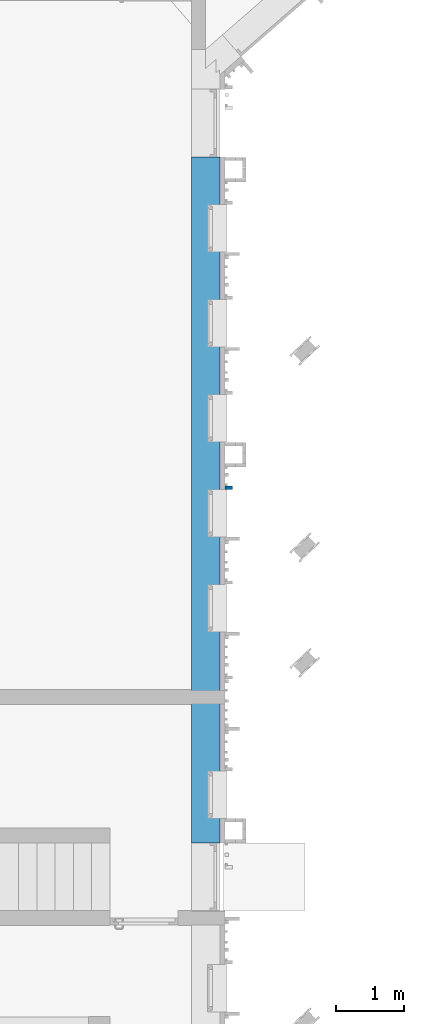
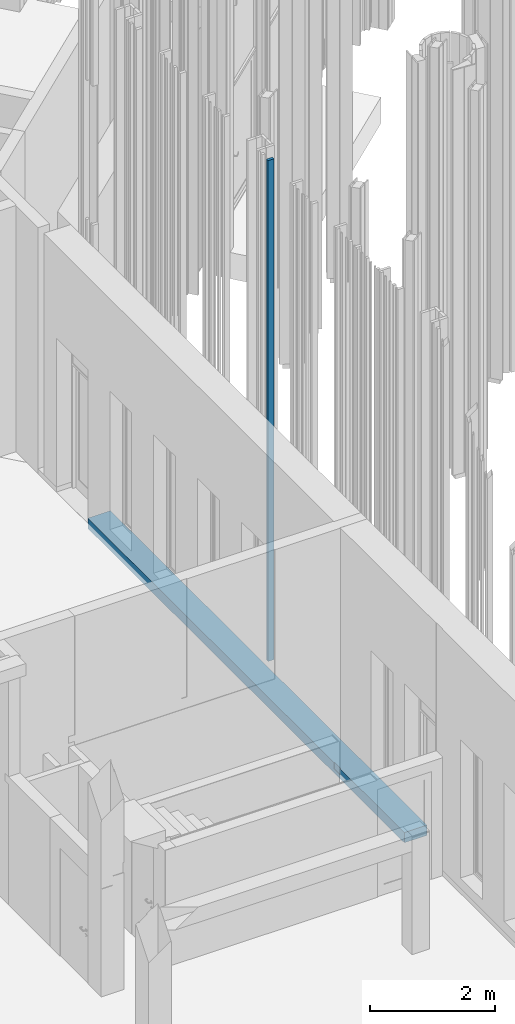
# One storey, part 189 of 390: 2 walls.
"""IFC2X3 building model written with IfcOpenShell, lengths in millimetres."""

from ifc_helpers import new_model, entity, si_unit, converted_unit, derived_unit, money_unit, direction, frame, origin_with_axes, place, context, subcontext, project, spatial, faceted_brep, material, material_list, type_object, element, save


model = new_model("IFC2X3")

# Units and contexts
model_context = context("Model", 3, precision=1e-05, world=origin_with_axes(), true_north=direction((0.0, 1.0)))
body_context = subcontext(model_context, "Body", "Model", "MODEL_VIEW")
ifc_project = project(units=[si_unit("LENGTHUNIT", "METRE", prefix="MILLI"), si_unit("AREAUNIT", "SQUARE_METRE"), si_unit("VOLUMEUNIT", "CUBIC_METRE"), converted_unit("PLANEANGLEUNIT", "DEGREE", entity("IfcPlaneAngleMeasure", 0.0174532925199), si_unit("PLANEANGLEUNIT", "RADIAN"), dimensions=[0, 0, 0, 0, 0, 0, 0]), si_unit("SOLIDANGLEUNIT", "STERADIAN"), money_unit("EUR"), converted_unit("TIMEUNIT", "Year", entity("IfcTimeMeasure", 31556926.0), si_unit("TIMEUNIT", "SECOND"), dimensions=[0, 0, 1, 0, 0, 0, 0]), si_unit("MASSUNIT", "GRAM", prefix="KILO"), si_unit("THERMODYNAMICTEMPERATUREUNIT", "DEGREE_CELSIUS"), si_unit("LUMINOUSINTENSITYUNIT", "LUMEN"), si_unit("ENERGYUNIT", "JOULE", prefix="MEGA"), derived_unit("THERMALCONDUCTANCEUNIT", [(si_unit("POWERUNIT", "WATT"), 1), (si_unit("LENGTHUNIT", "METRE"), -1), (si_unit("THERMODYNAMICTEMPERATUREUNIT", "KELVIN"), -1)]), derived_unit("SPECIFICHEATCAPACITYUNIT", [(si_unit("ENERGYUNIT", "JOULE"), 1), (si_unit("MASSUNIT", "GRAM", prefix="KILO"), -1), (si_unit("THERMODYNAMICTEMPERATUREUNIT", "KELVIN"), -1)]), derived_unit("MASSDENSITYUNIT", [(si_unit("MASSUNIT", "GRAM", prefix="KILO"), 1), (si_unit("VOLUMEUNIT", "CUBIC_METRE"), -1)])], contexts=[model_context])

# Site, building, storey
site_placement = place(None, origin_with_axes())
site = spatial("IfcSite", under=ifc_project, at=site_placement, Name="Site", CompositionType="ELEMENT")
building_placement = place(site_placement, origin_with_axes())
building = spatial("IfcBuilding", under=site, at=building_placement, Name="Building", CompositionType="ELEMENT")
storey_placement = place(building_placement, origin_with_axes())
storey = spatial("IfcBuildingStorey", under=building, at=storey_placement, Name="1 korrus", CompositionType="ELEMENT", Elevation=0.0)

# Walls
ifc_material_1 = material(Name="Site specified")
wall_type_1 = type_object("IfcWallType", Name="Puitfassaadi ribistik", PredefinedType="NOTDEFINED")
wall_1_placement = place(storey_placement, frame((139841.499998, 60128.0000087, 100.000000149), z_axis=(0.0, 0.0, 1.0), x_axis=(0.0, -1.0, 0.0)))
element("IfcWall", 1, at=wall_1_placement, inside=storey, type_object=wall_type_1, material=ifc_material_1, Name="Site specified", context=body_context, shape_type="Brep", body=[
    faceted_brep([(-25.0, -54.5, 9764.99999985), (-25.0, -54.5, 0.0), (25.0, -54.5, 0.0), (25.0, -54.5, 9764.99999985), (-25.0, 54.5, 9764.99999985), (-25.0, 54.5, 0.0), (25.0, 54.5, 0.0), (25.0, 54.5, 9764.99999985)], [[[0, 1, 2, 3]], [[4, 5, 1, 0]], [[2, 1, 5, 6]], [[3, 2, 6, 7]], [[4, 0, 3, 7]], [[7, 6, 5, 4]]]),
])
ifc_material_2 = material(Name="Krohv - Lubjakivi")
ifc_material_3 = material(Name="Raudbetoon - Konstruktsioon")
ifc_material_4 = material(Name="Soojustus - Plastik Kõva")
ifc_material_5 = material(Name="Plaat - Sein")
ifc_material_list = material_list([ifc_material_2, ifc_material_3, ifc_material_4, ifc_material_4, ifc_material_5])
wall_type_2 = type_object("IfcWallType", Name="VS-05", PredefinedType="NOTDEFINED")
wall_2_placement = place(storey_placement, frame((139290.000167, 54889.9993968, -100.0), z_axis=(0.0, 0.0, 1.0), x_axis=(1.84208593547e-08, 1.0, 0.0)))
element("IfcWall", 2, at=wall_2_placement, inside=storey, type_object=wall_type_2, material=ifc_material_list, Name="VS-05", context=body_context, shape_type="Brep", body=[
    faceted_brep([(2250.000038, 4.1446924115e-05, 199.99999879), (2250.00003527, -9.99995855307, 199.999998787), (10110.0006205, -9.99981376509, 200.0), (10110.0006203, 0.000186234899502, 200.0), (2250.00003527, -9.99995855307, 80.0), (2250.000038, 4.1446924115e-05, 80.0), (2050.00003527, -9.99996223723, 80.0), (2050.00003527, -9.99996223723, 199.999998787), (1.84208204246e-07, -9.99999999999, 200.0), (1.84208204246e-07, -9.99999999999, 0.0), (10110.0006205, -9.99981376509, 0.0), (10110.0006203, 0.000186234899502, 0.0), (0.0, 0.0, 0.0), (0.0, 0.0, 200.0), (2050.000038, 3.77627600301e-05, 199.99999879), (2050.000038, 3.77627600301e-05, 80.0)], [[[0, 1, 2, 3]], [[4, 1, 0, 5]], [[6, 7, 8, 9, 10, 2, 1, 4]], [[3, 2, 10, 11]], [[5, 0, 3, 11, 12, 13, 14, 15]], [[6, 4, 5, 15]], [[14, 7, 6, 15]], [[7, 14, 13, 8]], [[9, 8, 13, 12]], [[12, 11, 10, 9]]]),
    faceted_brep([(10110.0006242, -209.999813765, 200.0), (10110.0006205, -9.99981376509, 200.0), (1.84208204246e-07, -9.99999999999, 200.0), (3.86837939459e-06, -210.0, 200.0), (10110.0006242, -209.999813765, 0.0), (10110.0006205, -9.99981376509, 0.0), (1.84208204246e-07, -9.99999999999, 0.0), (3.86837939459e-06, -210.0, 0.0)], [[[0, 1, 2, 3]], [[0, 4, 5, 1]], [[1, 5, 6, 2]], [[3, 2, 6, 7]], [[4, 0, 3, 7]], [[5, 4, 7, 6]]]),
    faceted_brep([(10110.0006269, -359.999813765, 200.0), (10110.0006242, -209.999813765, 200.0), (3.86837939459e-06, -210.0, 200.0), (6.6315095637e-06, -360.0, 200.0), (10110.0006269, -359.999813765, 0.0), (10110.0006242, -209.999813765, 0.0), (3.86837939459e-06, -210.0, 0.0), (6.6315095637e-06, -360.0, 0.0)], [[[0, 1, 2, 3]], [[0, 4, 5, 1]], [[1, 5, 6, 2]], [[3, 2, 6, 7]], [[4, 0, 3, 7]], [[5, 4, 7, 6]]]),
    faceted_brep([(10110.0006278, -409.999813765, 200.0), (10110.0006269, -359.999813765, 200.0), (6.6315095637e-06, -360.0, 200.0), (7.55255058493e-06, -410.0, 200.0), (10110.0006278, -409.999813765, 0.0), (10110.0006269, -359.999813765, 0.0), (6.6315095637e-06, -360.0, 0.0), (7.55255058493e-06, -410.0, 0.0)], [[[0, 1, 2, 3]], [[0, 4, 5, 1]], [[1, 5, 6, 2]], [[3, 2, 6, 7]], [[4, 0, 3, 7]], [[5, 4, 7, 6]]]),
    faceted_brep([(10110.000628, -417.999813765, 200.0), (10110.0006278, -409.999813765, 200.0), (7.55255058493e-06, -410.0, 200.0), (7.69991714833e-06, -418.0, 200.0), (10110.000628, -417.999813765, 0.0), (10110.0006278, -409.999813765, 0.0), (7.55255058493e-06, -410.0, 0.0), (7.69991714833e-06, -418.0, 0.0)], [[[0, 1, 2, 3]], [[0, 4, 5, 1]], [[1, 5, 6, 2]], [[3, 2, 6, 7]], [[4, 0, 3, 7]], [[5, 4, 7, 6]]]),
])

save(model, "model.ifc")
